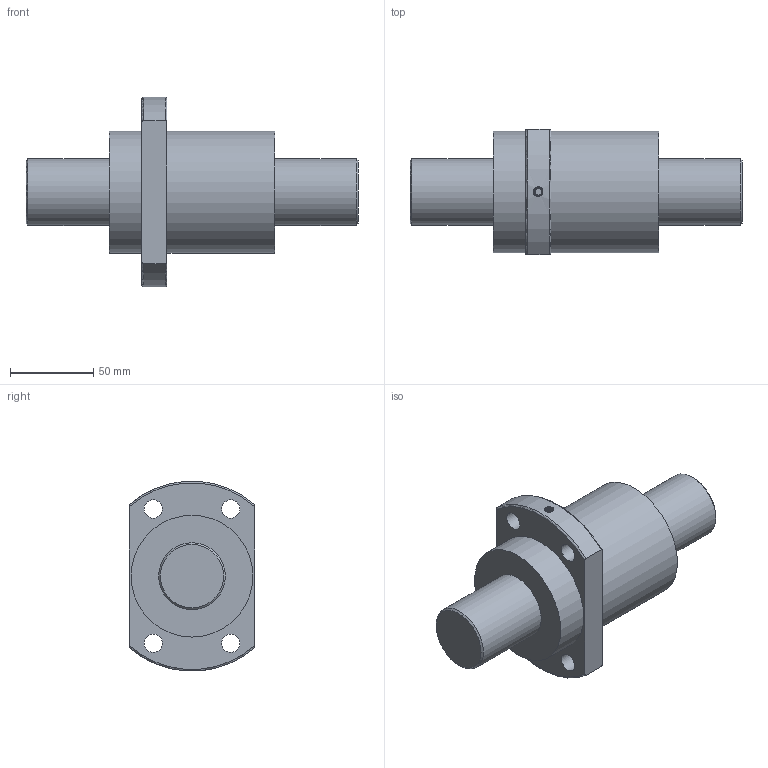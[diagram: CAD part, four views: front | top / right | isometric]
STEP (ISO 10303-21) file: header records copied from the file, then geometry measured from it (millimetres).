
FILE_DESCRIPTION(/* description */ ('Unknown','CAx-IF Rec.Pracs.---Representation and Presentation of Product Manufacturing Information (PMI)---4.0---2014-10-13','CAx-IF Rec.Pracs.---3D Tessellated Geometry---0.4---2014-09-14','2;1'),/* implementation_level */ '2;1');
FILE_NAME(/* name */ 'SFY4040-3.6',/* time_stamp */ '2020-12-06T18:27:10+08:00',/* author */ ('Unknown'),/* organization */ ('Unknown'),/* preprocessor_version */ 'ST-DEVELOPER v16.7',/* originating_system */ 'Solid Edge',/* authorisation */ 'Unknown');
FILE_SCHEMA (('AP242_MANAGED_MODEL_BASED_3D_ENGINEERING_MIM_LF { 1 0 10303 442 1 1 4 }'));
Length unit declared in the file: millimetre
Products named in the file (1): SFY4040-3
Bounding box: 199 x 75 x 113.82 mm (x, y, z)
Volume: 589093.2 mm3; surface area: 54200.4 mm2
Topology: 1 solids, 1 shells, 33 faces, 74 edges, 48 vertices
Faces by surface type: cylinder 14, plane 10, torus 4, cone 3, bspline 2
Full cylindrical faces by diameter (mm): 4 x1, 4.917 x1, 11 x4, 40 x2, 73 x2
Entity records: 3007 total; most frequent: CARTESIAN_POINT 2268, DIRECTION 142, ORIENTED_EDGE 116, AXIS2_PLACEMENT_3D 68, EDGE_LOOP 59, FACE_BOUND 59, EDGE_CURVE 58, VERTEX_POINT 45
